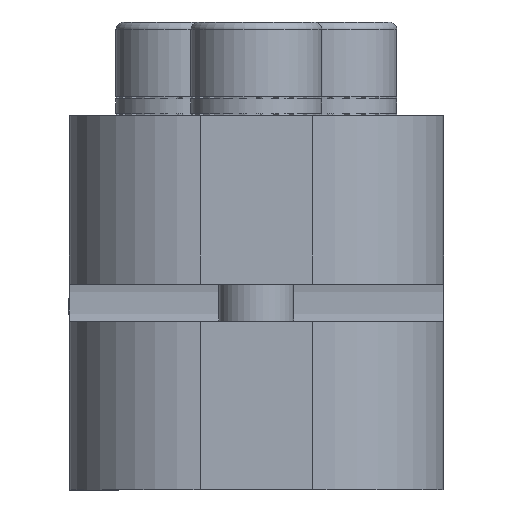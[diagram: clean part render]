
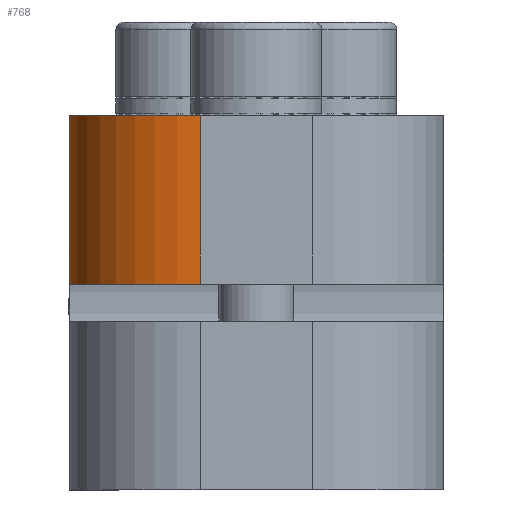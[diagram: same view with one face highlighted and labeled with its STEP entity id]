
A CAD part, front view. The second image highlights one B-rep face of the part: STEP entity #768.
In plain terms, the highlighted cylindrical face has radius 7 mm (diameter 14 mm), a partial arc.
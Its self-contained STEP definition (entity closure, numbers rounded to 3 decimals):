
#768=ADVANCED_FACE('',(#1668),#1669,.T.);
#1668=FACE_OUTER_BOUND('',#2821,.T.);
#1669=CYLINDRICAL_SURFACE('',#2822,7.0);
#2821=EDGE_LOOP('',(#6575,#6576,#6577,#6578));
#2822=AXIS2_PLACEMENT_3D('',#6579,#6580,#6581);
#6575=ORIENTED_EDGE('',*,*,#9500,.F.);
#6576=ORIENTED_EDGE('',*,*,#9455,.F.);
#6577=ORIENTED_EDGE('',*,*,#9472,.F.);
#6578=ORIENTED_EDGE('',*,*,#9483,.F.);
#6579=CARTESIAN_POINT('',(3.0,20.0,15.0));
#6580=DIRECTION('',(0.0,-1.0,0.0));
#6581=DIRECTION('',(0.0,0.0,-1.0));
#9455=EDGE_CURVE('',#10786,#10781,#10788,.F.);
#9472=EDGE_CURVE('',#10813,#10786,#10815,.F.);
#9483=EDGE_CURVE('',#10830,#10813,#10832,.T.);
#9500=EDGE_CURVE('',#10781,#10830,#10855,.F.);
#10781=VERTEX_POINT('',#12789);
#10786=VERTEX_POINT('',#12796);
#10788=LINE('',#12799,#12800);
#10813=VERTEX_POINT('',#12831);
#10815=CIRCLE('',#12834,7.0);
#10830=VERTEX_POINT('',#12855);
#10832=LINE('',#12858,#12859);
#10855=CIRCLE('',#12887,7.0);
#12789=CARTESIAN_POINT('',(3.0,9.0,22.0));
#12796=CARTESIAN_POINT('',(3.0,0.0,22.0));
#12799=CARTESIAN_POINT('',(3.0,20.0,22.0));
#12800=VECTOR('',#15789,1.0);
#12831=CARTESIAN_POINT('',(10.0,0.0,15.0));
#12834=AXIS2_PLACEMENT_3D('',#15815,#15816,#15817);
#12855=CARTESIAN_POINT('',(10.0,9.0,15.0));
#12858=CARTESIAN_POINT('',(10.0,20.0,15.0));
#12859=VECTOR('',#15831,1.0);
#12887=AXIS2_PLACEMENT_3D('',#15858,#15859,#15860);
#15789=DIRECTION('',(0.0,-1.0,0.0));
#15815=CARTESIAN_POINT('',(3.0,0.0,15.0));
#15816=DIRECTION('',(0.0,1.0,0.0));
#15817=DIRECTION('',(0.0,0.0,1.0));
#15831=DIRECTION('',(0.0,-1.0,0.0));
#15858=CARTESIAN_POINT('',(3.0,9.0,15.0));
#15859=DIRECTION('',(0.0,-1.0,0.));
#15860=DIRECTION('',(0.0,0.,-1.0));
